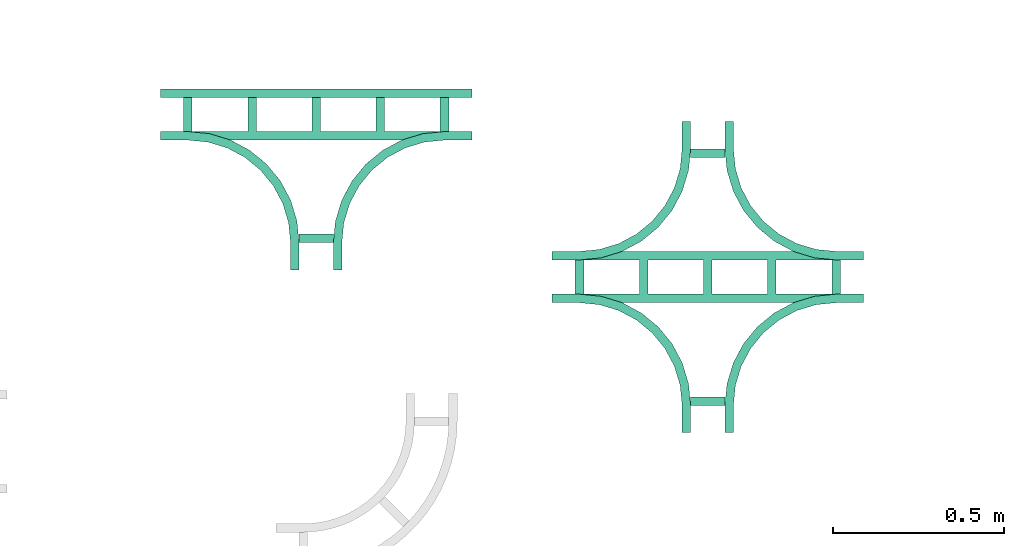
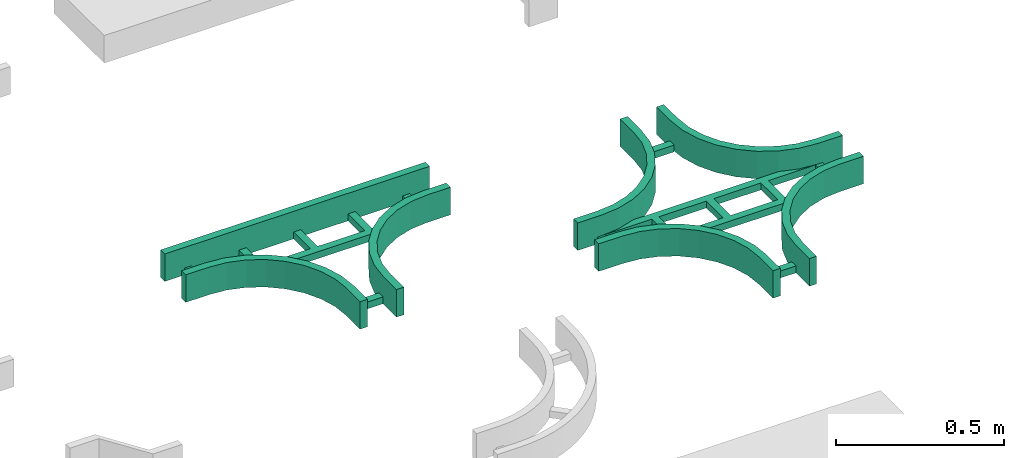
# One storey, part 12 of 13: 2 flow fittings.
"""IFC2X3 building model written with IfcOpenShell, lengths in millimetres."""

import ifcopenshell
import ifcopenshell.guid

model = None  # the IFC model being written
_history = None  # IfcOwnerHistory: only IFC2X3 demands one
_inside = {}  # id of a spatial element -> (the spatial element, [elements in it])
_under = {}  # id of a project, library or spatial element -> (it, [spatial elements below it])
_declared = {}  # id of a project -> (the project, [libraries it declares])
_typed = {}  # id of a type object -> (the type object, [elements of that type])
_made_of = {}  # id of a material, layer set ... -> (it, [elements and type objects made of it])


def new_model(schema):
    """Start an empty IFC model of exactly this schema.

    Asked for "IFC4X3", IfcOpenShell would pick the latest addendum, in which some entities
    have other attributes; the version numbers below select the first issue.
    IFC2X3 requires an IfcOwnerHistory on every rooted entity: one is made here for all.
    """
    global model, _history
    if schema == "IFC4X3":
        model = ifcopenshell.file(schema_version=(4, 3, 0, 0))
    else:
        model = ifcopenshell.file(schema=schema)
    _inside.clear()
    _under.clear()
    _declared.clear()
    _typed.clear()
    _made_of.clear()
    _history = None
    if model.schema == "IFC2X3":
        org = make("IfcOrganization", Name="unknown")
        user = make(
            "IfcPersonAndOrganization",
            ThePerson=make("IfcPerson", FamilyName="unknown"),
            TheOrganization=org,
        )
        app = make(
            "IfcApplication",
            ApplicationDeveloper=org,
            Version="unknown",
            ApplicationFullName="unknown",
            ApplicationIdentifier="unknown",
        )
        _history = make(
            "IfcOwnerHistory",
            OwningUser=user,
            OwningApplication=app,
            ChangeAction="ADDED",
            CreationDate=0,
        )
    return model


def make(cls, **values):
    """One entity of the class cls with the attributes given. An attribute that is None is left unset."""
    return model.create_entity(
        cls, **{name: value for name, value in values.items() if value is not None}
    )


def entity(cls, *values):
    """Any entity or typed value of the class cls, its attributes in the order of the schema. None: left unset."""
    e = model.create_entity(cls)
    for i, value in enumerate(values):
        if value is not None:
            e[i] = value
    return e


def rooted(cls, **values):
    """An entity with a GlobalId (a new one), such as an element, a storey or a relation."""
    return make(cls, GlobalId=ifcopenshell.guid.new(), OwnerHistory=_history, **values)


def si_unit(unit_type, name, prefix=None):
    """IfcSIUnit, for example si_unit("LENGTHUNIT", "METRE", prefix="MILLI")."""
    return make("IfcSIUnit", UnitType=unit_type, Prefix=prefix, Name=name)


def converted_unit(unit_type, name, factor, base, dimensions=None, offset=None):
    """IfcConversionBasedUnit, such as the inch: factor (a typed value) times the base unit."""
    return make(
        "IfcConversionBasedUnit"
        if offset is None
        else "IfcConversionBasedUnitWithOffset",
        ConversionOffset=offset,
        Dimensions=None
        if dimensions is None
        else entity("IfcDimensionalExponents", *dimensions),
        UnitType=unit_type,
        Name=name,
        ConversionFactor=make(
            "IfcMeasureWithUnit", ValueComponent=factor, UnitComponent=base
        ),
    )


def derived_unit(unit_type, elements):
    """IfcDerivedUnit: a product of units, each with its exponent."""
    return make(
        "IfcDerivedUnit",
        Elements=[
            make("IfcDerivedUnitElement", Unit=unit, Exponent=power)
            for unit, power in elements
        ],
        UnitType=unit_type,
    )


def assignment(units):
    """IfcUnitAssignment: the units of a project."""
    return None if units is None else make("IfcUnitAssignment", Units=units)


def point(xyz):
    """IfcCartesianPoint."""
    return None if xyz is None else make("IfcCartesianPoint", Coordinates=xyz)


def direction(xyz):
    """IfcDirection."""
    return None if xyz is None else make("IfcDirection", DirectionRatios=xyz)


def frame(location, z_axis=None, x_axis=None):
    """IfcAxis2Placement3D, a coordinate frame: its origin and axes. An axis left out is left unset."""
    return make(
        "IfcAxis2Placement3D",
        Location=point(location),
        Axis=direction(z_axis),
        RefDirection=direction(x_axis),
    )


def origin():
    """The frame at (0, 0, 0) with its axes left unset."""
    return frame((0.0, 0.0, 0.0))


def place(relative_to, where):
    """IfcLocalPlacement: puts the frame where relative to a parent placement (None: the world)."""
    return make(
        "IfcLocalPlacement", PlacementRelTo=relative_to, RelativePlacement=where
    )


def context(
    kind, dimensions, precision=None, world=None, true_north=None, identifier=None
):
    """IfcGeometricRepresentationContext, for example the 3D "Model" context."""
    return make(
        "IfcGeometricRepresentationContext",
        ContextIdentifier=identifier,
        ContextType=kind,
        CoordinateSpaceDimension=dimensions,
        Precision=precision,
        WorldCoordinateSystem=world,
        TrueNorth=true_north,
    )


def subcontext(parent, identifier, kind, view, scale=None):
    """IfcGeometricRepresentationSubContext, for example "Body" below "Model"."""
    return make(
        "IfcGeometricRepresentationSubContext",
        ContextIdentifier=identifier,
        ContextType=kind,
        ParentContext=parent,
        TargetScale=scale,
        TargetView=view,
    )


def project(units=None, contexts=None):
    """IfcProject with its units and contexts."""
    return rooted(
        "IfcProject",
        Name="project",
        RepresentationContexts=contexts,
        UnitsInContext=assignment(units),
    )


def spatial(cls, under=None, at=None, **own):
    """A site, building, storey or space (cls), placed at a placement, below another one or the project."""
    s = rooted(cls, ObjectPlacement=at, **own)
    if under is not None:
        _under.setdefault(under.id(), (under, []))[1].append(s)
    return s


def faces_of(points, faces, orient=None, outer=None):
    """IfcFace entities. A face is a list of loops; a loop is a list of indices into points, from 0.

    orient and outer hold one flag for each loop. By default every Orientation is true, the
    first loop of a face is its IfcFaceOuterBound and the others are IfcFaceBound.
    """
    made = []
    for i, loops in enumerate(faces):
        bounds = []
        for j, loop in enumerate(loops):
            is_outer = j == 0 if outer is None else outer[i][j]
            bounds.append(
                make(
                    "IfcFaceOuterBound" if is_outer else "IfcFaceBound",
                    Bound=make("IfcPolyLoop", Polygon=[points[k] for k in loop]),
                    Orientation=True if orient is None else orient[i][j],
                )
            )
        made.append(make("IfcFace", Bounds=bounds))
    return made


def faceted_brep(points, faces, orient=None, outer=None, voids=None):
    """IfcFacetedBrep: a solid bounded by flat faces; with voids (closed shells), ...WithVoids."""
    shared = [point(p) for p in points]
    hull = make("IfcClosedShell", CfsFaces=faces_of(shared, faces, orient, outer))
    if voids is None:
        return make("IfcFacetedBrep", Outer=hull)
    return make(
        "IfcFacetedBrepWithVoids",
        Outer=hull,
        Voids=[
            make(cls, CfsFaces=faces_of(shared, fs, o, b)) for cls, fs, o, b in voids
        ],
    )


def shape(context_of_items, identifier, shape_type, items):
    """IfcShapeRepresentation: the items that make up one representation, for example the "Body"."""
    return make(
        "IfcShapeRepresentation",
        ContextOfItems=context_of_items,
        RepresentationIdentifier=identifier,
        RepresentationType=shape_type,
        Items=items,
    )


def source(mapping_origin, context_of_items, identifier, shape_type, items):
    """IfcRepresentationMap: a shape defined once, which mapped items show again and again."""
    return make(
        "IfcRepresentationMap",
        MappingOrigin=mapping_origin,
        MappedRepresentation=shape(context_of_items, identifier, shape_type, items),
    )


def transform(
    local_origin,
    x_axis=None,
    y_axis=None,
    z_axis=None,
    scale=None,
    scale2=None,
    scale3=None,
    uniform=True,
):
    """IfcCartesianTransformationOperator3D, or its non-uniform kind. x_axis, y_axis, z_axis: its Axis1, 2, 3."""
    if uniform:
        return make(
            "IfcCartesianTransformationOperator3D",
            Axis1=direction(x_axis),
            Axis2=direction(y_axis),
            LocalOrigin=point(local_origin),
            Scale=scale,
            Axis3=direction(z_axis),
        )
    return make(
        "IfcCartesianTransformationOperator3DnonUniform",
        Axis1=direction(x_axis),
        Axis2=direction(y_axis),
        LocalOrigin=point(local_origin),
        Scale=scale,
        Axis3=direction(z_axis),
        Scale2=scale2,
        Scale3=scale3,
    )


def mapped(mapping_source, mapping_target):
    """IfcMappedItem: shows the shape of a source again, moved by a transform."""
    return make(
        "IfcMappedItem", MappingSource=mapping_source, MappingTarget=mapping_target
    )


def made_of(thing, what):
    """Note that an element or type object is made of a material, layer set ...; save() writes the relation."""
    if what is not None:
        _made_of.setdefault(what.id(), (what, []))[1].append(thing)
    return thing


def type_object(cls, material=None, **own):
    """A type object (cls), such as IfcWallType, which elements share."""
    return made_of(rooted(cls, **own), material)


def type_shapes(of_type, sources):
    """Give a type object the sources (RepresentationMaps) that its elements show as mapped items."""
    of_type.RepresentationMaps = sources


def element(
    cls,
    number,
    at=None,
    inside=None,
    cuts=None,
    type_object=None,
    material=None,
    context=None,
    identifier="Body",
    shape_type=None,
    held_by="IfcProductDefinitionShape",
    body=None,
    shapes=None,
    **own,
):
    """One element of the class cls, such as IfcWall. Its Tag is "e" and its number.

    at: its placement. inside: the storey or other place that contains it. cuts: it is an
    opening in that element (IfcRelVoidsElement). A single representation is given by context,
    identifier, shape_type and body (its items); several are given by shapes. held_by: the class
    of the entity that holds the representations. save() writes the other relations.
    """
    e = rooted(cls, Tag="e%d" % number, ObjectPlacement=at, **own)
    if body is not None:
        shapes = [shape(context, identifier, shape_type, body)]
    if shapes is not None:
        e.Representation = make(held_by, Representations=shapes)
    if inside is not None:
        _inside.setdefault(inside.id(), (inside, []))[1].append(e)
    if cuts is not None:
        rooted(
            "IfcRelVoidsElement", RelatingBuildingElement=cuts, RelatedOpeningElement=e
        )
    if type_object is not None:
        _typed.setdefault(type_object.id(), (type_object, []))[1].append(e)
    return made_of(e, material)


def aggregate(whole, parts):
    """IfcRelAggregates: a whole, such as a stair, and the parts it consists of."""
    return rooted("IfcRelAggregates", RelatingObject=whole, RelatedObjects=parts)


def save(model, path):
    """Write the relations noted so far, then the file.

    IfcRelAggregates (storeys below a building ...), IfcRelContainedInSpatialStructure (elements
    in a storey), IfcRelDefinesByType, IfcRelAssociatesMaterial and IfcRelDeclares: one each for
    every whole, place, type object, material and project.
    """
    for whole, parts in _under.values():
        aggregate(whole, parts)
    for where, things in _inside.values():
        rooted(
            "IfcRelContainedInSpatialStructure",
            RelatedElements=things,
            RelatingStructure=where,
        )
    for kind, things in _typed.values():
        rooted("IfcRelDefinesByType", RelatedObjects=things, RelatingType=kind)
    for what, things in _made_of.values():
        rooted("IfcRelAssociatesMaterial", RelatedObjects=things, RelatingMaterial=what)
    for by, libraries in _declared.values():
        rooted("IfcRelDeclares", RelatingContext=by, RelatedDefinitions=libraries)
    model.write(path)


model = new_model("IFC2X3")

# Units and contexts
model_context = context("Model", 3, precision=0.01, world=origin(), true_north=direction((6.12303176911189e-17, 1.0)))
body_context = subcontext(model_context, "Body", "Model", "MODEL_VIEW")
ifc_project = project(units=[si_unit("LENGTHUNIT", "METRE", prefix="MILLI"), si_unit("AREAUNIT", "SQUARE_METRE"), si_unit("VOLUMEUNIT", "CUBIC_METRE"), converted_unit("PLANEANGLEUNIT", "DEGREE", entity("IfcRatioMeasure", 0.0174532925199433), si_unit("PLANEANGLEUNIT", "RADIAN"), dimensions=[0, 0, 0, 0, 0, 0, 0]), si_unit("MASSUNIT", "GRAM", prefix="KILO"), si_unit("TIMEUNIT", "SECOND"), si_unit("FREQUENCYUNIT", "HERTZ"), si_unit("THERMODYNAMICTEMPERATUREUNIT", "KELVIN"), derived_unit("THERMALTRANSMITTANCEUNIT", [(si_unit("MASSUNIT", "GRAM", prefix="KILO"), 1), (si_unit("THERMODYNAMICTEMPERATUREUNIT", "KELVIN"), -1), (si_unit("TIMEUNIT", "SECOND"), -3)]), derived_unit("VOLUMETRICFLOWRATEUNIT", [(si_unit("LENGTHUNIT", "METRE"), 3), (si_unit("TIMEUNIT", "SECOND"), -1)]), si_unit("ELECTRICCURRENTUNIT", "AMPERE"), si_unit("ELECTRICVOLTAGEUNIT", "VOLT"), si_unit("POWERUNIT", "WATT")], contexts=[model_context])

# Site, building, storey
site_placement = place(None, origin())
site = spatial("IfcSite", under=ifc_project, at=site_placement, Name="Surface", CompositionType="ELEMENT")
building_placement = place(site_placement, origin())
building = spatial("IfcBuilding", under=site, at=building_placement, CompositionType="ELEMENT")
storey_placement = place(building_placement, origin())
storey = spatial("IfcBuildingStorey", under=building, at=storey_placement, Name="00_begane grond", CompositionType="ELEMENT", Elevation=0.0)

# Flow fittings
cable_carrier_fitting_type_1 = type_object("IfcCableCarrierFittingType", Name="T-stuk, radius_300", PredefinedType="NOTDEFINED")
shared_shape_1 = source(origin(), body_context, "Body", "Brep", [
    faceted_brep([(50.0, -350.0, -25.0), (-50.0, -350.0, -25.0), (-50.0, -375.0, -25.0), (50.0, -375.0, -25.0), (50.0, -350.0, -50.0), (50.0, -375.0, -50.0), (-50.0, -375.0, -50.0), (-50.0, -350.0, -50.0)], [[[0, 1, 2, 3]], [[4, 5, 6, 7]], [[1, 0, 4, 7]], [[2, 1, 7, 6]], [[3, 2, 6, 5]], [[0, 3, 5, 4]]]),
    faceted_brep([(387.500000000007, 50.0, -25.0), (362.500000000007, 50.0, -25.0), (362.500000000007, -50.0, -25.0), (387.500000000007, -50.0, -25.0), (387.500000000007, 50.0, -50.0), (387.500000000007, -50.0, -50.0), (362.500000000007, -50.0, -50.0), (362.500000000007, 50.0, -50.0)], [[[0, 1, 2, 3]], [[4, 5, 6, 7]], [[1, 0, 4, 7]], [[2, 1, 7, 6]], [[3, 2, 6, 5]], [[0, 3, 5, 4]]]),
    faceted_brep([(200.0, 50.0, -25.0), (175.0, 50.0, -25.0), (175.0, -50.0, -25.0), (200.0, -50.0, -25.0), (200.0, 50.0, -50.0), (200.0, -50.0, -50.0), (175.0, -50.0, -50.0), (175.0, 50.0, -50.0)], [[[0, 1, 2, 3]], [[4, 5, 6, 7]], [[1, 0, 4, 7]], [[2, 1, 7, 6]], [[3, 2, 6, 5]], [[0, 3, 5, 4]]]),
    faceted_brep([(12.5000000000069, 50.0, -25.0), (-12.4999999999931, 50.0, -25.0), (-12.4999999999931, -50.0, -25.0), (12.5000000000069, -50.0, -25.0), (12.5000000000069, 50.0, -50.0), (12.5000000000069, -50.0, -50.0), (-12.4999999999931, -50.0, -50.0), (-12.4999999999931, 50.0, -50.0)], [[[0, 1, 2, 3]], [[4, 5, 6, 7]], [[1, 0, 4, 7]], [[2, 1, 7, 6]], [[3, 2, 6, 5]], [[0, 3, 5, 4]]]),
    faceted_brep([(-175.0, 50.0, -25.0), (-200.0, 50.0, -25.0), (-200.0, -50.0, -25.0), (-175.0, -50.0, -25.0), (-175.0, 50.0, -50.0), (-175.0, -50.0, -50.0), (-200.0, -50.0, -50.0), (-200.0, 50.0, -50.0)], [[[0, 1, 2, 3]], [[4, 5, 6, 7]], [[1, 0, 4, 7]], [[2, 1, 7, 6]], [[3, 2, 6, 5]], [[0, 3, 5, 4]]]),
    faceted_brep([(-362.499999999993, 50.0, -25.0), (-387.499999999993, 50.0, -25.0), (-387.499999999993, -50.0, -25.0), (-362.499999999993, -50.0, -25.0), (-362.499999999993, 50.0, -50.0), (-362.499999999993, -50.0, -50.0), (-387.499999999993, -50.0, -50.0), (-387.499999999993, 50.0, -50.0)], [[[0, 1, 2, 3]], [[4, 5, 6, 7]], [[1, 0, 4, 7]], [[2, 1, 7, 6]], [[3, 2, 6, 5]], [[0, 3, 5, 4]]]),
    faceted_brep([(455.0, 75.0, 50.0), (-455.0, 75.0, 50.0), (-455.0, 50.0, 50.0), (455.0, 50.0, 50.0), (455.0, 75.0, -50.0), (-455.0, 75.0, -50.0), (-455.0, 50.0, -50.0), (455.0, 50.0, -50.0)], [[[0, 1, 2, 3]], [[1, 0, 4, 5]], [[2, 1, 5, 6]], [[3, 2, 6, 7]], [[0, 3, 7, 4]], [[4, 7, 6, 5]]]),
    faceted_brep([(-375.0, -50.0, 50.0), (-455.0, -50.0, 50.0), (-455.0, -75.0, 50.0), (-375.0, -75.0, 50.0), (-316.472903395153, -80.7644158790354, 50.0), (-260.194970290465, -97.8361402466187, 50.0), (-208.328930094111, -125.559116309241, 50.0), (-162.867965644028, -162.867965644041, 50.0), (-125.559116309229, -208.328930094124, 50.0), (-97.8361402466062, -260.194970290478, 50.0), (-80.7644158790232, -316.472903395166, 50.0), (-75.0, -375.0, 50.0), (-75.0, -455.0, 50.0), (-50.0, -455.0, 50.0), (-50.0, -375.0, 50.0), (-56.2447838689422, -311.595645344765, 50.0), (-74.7391519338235, -250.627884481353, 50.0), (-104.772376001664, -194.439674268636, 50.0), (-145.190296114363, -145.190296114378, 50.0), (-194.43967426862, -104.772376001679, 50.0), (-250.627884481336, -74.7391519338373, 50.0), (-311.595645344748, -56.2447838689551, 50.0), (250.627884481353, -74.7391519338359, 50.0), (194.439674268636, -104.772376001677, 50.0), (145.190296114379, -145.190296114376, 50.0), (104.77237600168, -194.439674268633, 50.0), (74.7391519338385, -250.62788448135, 50.0), (56.2447838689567, -311.595645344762, 50.0), (50.0, -375.0, 50.0), (50.0, -455.0, 50.0), (75.0, -455.0, 50.0), (75.0, -375.0, 50.0), (80.764415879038, -316.472903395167, 50.0), (97.8361402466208, -260.194970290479, 50.0), (125.559116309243, -208.328930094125, 50.0), (162.867965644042, -162.867965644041, 50.0), (208.328930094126, -125.559116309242, 50.0), (260.194970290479, -97.8361402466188, 50.0), (316.472903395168, -80.7644158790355, 50.0), (375.0, -75.0, 50.0), (455.0, -75.0, 50.0), (455.0, -50.0, 50.0), (375.0, -50.0, 50.0), (311.595645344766, -56.2447838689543, 50.0), (-50.0, -455.0, -50.0), (-75.0, -455.0, -50.0), (-75.0, -375.0, -50.0), (-80.7644158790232, -316.472903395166, -50.0), (-97.8361402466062, -260.194970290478, -50.0), (-125.559116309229, -208.328930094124, -50.0), (-162.867965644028, -162.867965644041, -50.0), (-208.328930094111, -125.559116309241, -50.0), (-260.194970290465, -97.8361402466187, -50.0), (-316.472903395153, -80.7644158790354, -50.0), (-375.0, -75.0, -50.0), (-455.0, -75.0, -50.0), (-455.0, -50.0, -50.0), (455.0, -50.0, -50.0), (455.0, -75.0, -50.0), (375.0, -75.0, -50.0), (316.472903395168, -80.7644158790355, -50.0), (260.194970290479, -97.8361402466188, -50.0), (208.328930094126, -125.559116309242, -50.0), (162.867965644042, -162.867965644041, -50.0), (125.559116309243, -208.328930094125, -50.0), (97.8361402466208, -260.194970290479, -50.0), (80.764415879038, -316.472903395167, -50.0), (75.0, -375.0, -50.0), (75.0, -455.0, -50.0), (50.0, -455.0, -50.0), (50.0, -375.0, -50.0), (56.2226983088, -311.706778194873, -50.0), (74.6525012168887, -250.837284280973, -50.0), (104.583665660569, -194.722419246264, -50.0), (144.87001976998, -145.511019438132, -50.0), (193.968855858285, -105.087560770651, -50.0), (250.0, -75.0, -50.0), (-250.0, -75.0, -50.0), (-193.968855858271, -105.087560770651, -50.0), (-144.870019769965, -145.511019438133, -50.0), (-104.583665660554, -194.722419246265, -50.0), (-74.6525012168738, -250.837284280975, -50.0), (-56.2226983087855, -311.706778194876, -50.0), (-50.0, -375.0, -50.0), (-250.0, -75.0, -25.0), (-311.262256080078, -56.3112804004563, -25.0), (-375.0, -50.0, -25.0), (375.0, -50.0, -25.0), (-375.0, -75.0, -25.0), (375.0, -75.0, -25.0), (250.0, -75.0, -25.0), (311.262256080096, -56.3112804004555, -25.0)], [[[0, 1, 2, 3, 4, 5, 6, 7, 8, 9, 10, 11, 12, 13, 14, 15, 16, 17, 18, 19, 20, 21]], [[22, 23, 24, 25, 26, 27, 28, 29, 30, 31, 32, 33, 34, 35, 36, 37, 38, 39, 40, 41, 42, 43]], [[44, 45, 46, 47, 48, 49, 50, 51, 52, 53, 54, 55, 56, 57, 58, 59, 60, 61, 62, 63, 64, 65, 66, 67, 68, 69, 70, 71, 72, 73, 74, 75, 76, 77, 78, 79, 80, 81, 82, 83]], [[12, 11, 46, 45]], [[13, 12, 45, 44]], [[30, 29, 69, 68]], [[14, 13, 44, 83]], [[14, 83, 82]], [[15, 82, 81]], [[14, 82, 15]], [[16, 80, 17]], [[16, 15, 81]], [[17, 80, 79]], [[80, 16, 81]], [[79, 18, 17]], [[78, 84, 19]], [[84, 78, 77]], [[84, 85, 20]], [[21, 85, 86]], [[18, 78, 19]], [[20, 19, 84]], [[85, 21, 20]], [[86, 0, 21]], [[78, 18, 79]], [[42, 41, 57, 56, 1, 0, 86, 87]], [[2, 1, 56, 55]], [[3, 2, 55, 54, 88]], [[40, 39, 89, 59, 58]], [[90, 84, 77, 76]], [[4, 3, 88, 54, 53]], [[53, 52, 5, 4]], [[5, 52, 51, 6]], [[51, 50, 7, 6]], [[8, 7, 50, 49]], [[10, 9, 48, 47]], [[8, 49, 48, 9]], [[10, 47, 46, 11]], [[32, 31, 67, 66]], [[65, 33, 32, 66]], [[33, 65, 64, 34]], [[35, 34, 64, 63]], [[36, 35, 63, 62]], [[38, 37, 61, 60]], [[36, 62, 61, 37]], [[38, 60, 59, 89, 39]], [[41, 40, 58, 57]], [[87, 91, 43]], [[90, 76, 75]], [[42, 87, 43]], [[22, 90, 23]], [[22, 43, 91]], [[23, 90, 75]], [[90, 22, 91]], [[75, 24, 23]], [[25, 74, 73]], [[27, 72, 71]], [[73, 72, 26]], [[28, 71, 70]], [[24, 74, 25]], [[26, 25, 73]], [[72, 27, 26]], [[71, 28, 27]], [[74, 24, 75]], [[29, 28, 70, 69]], [[31, 30, 68, 67]], [[91, 87, 86, 85, 84, 90]]]),
])
type_shapes(cable_carrier_fitting_type_1, [shared_shape_1])
flow_fitting_1_placement = place(storey_placement, frame((1396.10926164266, -45190.8848319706, 0.0)))
element("IfcFlowFitting", 1, at=flow_fitting_1_placement, inside=storey, type_object=cable_carrier_fitting_type_1, Name="61_CTF_kabelgoot_open_Tsplitsing:T-stuk, radius_300", ObjectType="T-stuk, radius_300", context=body_context, shape_type="MappedRepresentation", body=[
    mapped(shared_shape_1, transform((0.0, 0.0, 0.0), scale=1.0)),
])
cable_carrier_fitting_type_2 = type_object("IfcCableCarrierFittingType", Name="kruising, radius_300", PredefinedType="NOTDEFINED")
shared_shape_2 = source(origin(), body_context, "Body", "Brep", [
    faceted_brep([(50.0, 375.0, -25.0), (-50.0, 375.0, -25.0), (-50.0, 350.0, -25.0), (50.0, 350.0, -25.0), (50.0, 375.0, -50.0), (50.0, 350.0, -50.0), (-50.0, 350.0, -50.0), (-50.0, 375.0, -50.0)], [[[0, 1, 2, 3]], [[4, 5, 6, 7]], [[1, 0, 4, 7]], [[2, 1, 7, 6]], [[3, 2, 6, 5]], [[0, 3, 5, 4]]]),
    faceted_brep([(-50.0, -350.0, -25.0), (50.0, -350.0, -25.0), (50.0, -350.0, -50.0), (-50.0, -350.0, -50.0), (-50.0, -375.0, -25.0), (-50.0, -375.0, -50.0), (50.0, -375.0, -25.0), (50.0, -375.0, -50.0)], [[[0, 1, 2, 3]], [[4, 0, 3, 5]], [[6, 4, 5, 7]], [[1, 6, 7, 2]], [[2, 7, 5, 3]], [[1, 0, 4, 6]]]),
    faceted_brep([(387.500000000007, 50.0, -25.0), (362.500000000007, 50.0, -25.0), (362.500000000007, -50.0, -25.0), (387.500000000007, -50.0, -25.0), (387.500000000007, 50.0, -50.0), (387.500000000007, -50.0, -50.0), (362.500000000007, -50.0, -50.0), (362.500000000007, 50.0, -50.0)], [[[0, 1, 2, 3]], [[4, 5, 6, 7]], [[1, 0, 4, 7]], [[2, 1, 7, 6]], [[3, 2, 6, 5]], [[0, 3, 5, 4]]]),
    faceted_brep([(200.0, 50.0, -25.0), (175.0, 50.0, -25.0), (175.0, -50.0, -25.0), (200.0, -50.0, -25.0), (200.0, 50.0, -50.0), (200.0, -50.0, -50.0), (175.0, -50.0, -50.0), (175.0, 50.0, -50.0)], [[[0, 1, 2, 3]], [[4, 5, 6, 7]], [[1, 0, 4, 7]], [[2, 1, 7, 6]], [[3, 2, 6, 5]], [[0, 3, 5, 4]]]),
    faceted_brep([(12.5000000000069, 50.0, -25.0), (-12.4999999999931, 50.0, -25.0), (-12.4999999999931, -50.0, -25.0), (12.5000000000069, -50.0, -25.0), (12.5000000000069, 50.0, -50.0), (12.5000000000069, -50.0, -50.0), (-12.4999999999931, -50.0, -50.0), (-12.4999999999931, 50.0, -50.0)], [[[0, 1, 2, 3]], [[4, 5, 6, 7]], [[1, 0, 4, 7]], [[2, 1, 7, 6]], [[3, 2, 6, 5]], [[0, 3, 5, 4]]]),
    faceted_brep([(-175.0, 50.0, -25.0), (-200.0, 50.0, -25.0), (-200.0, -50.0, -25.0), (-175.0, -50.0, -25.0), (-175.0, 50.0, -50.0), (-175.0, -50.0, -50.0), (-200.0, -50.0, -50.0), (-200.0, 50.0, -50.0)], [[[0, 1, 2, 3]], [[4, 5, 6, 7]], [[1, 0, 4, 7]], [[2, 1, 7, 6]], [[3, 2, 6, 5]], [[0, 3, 5, 4]]]),
    faceted_brep([(-362.499999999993, 50.0, -25.0), (-387.499999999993, 50.0, -25.0), (-387.499999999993, -50.0, -25.0), (-362.499999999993, -50.0, -25.0), (-362.499999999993, 50.0, -50.0), (-362.499999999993, -50.0, -50.0), (-387.499999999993, -50.0, -50.0), (-387.499999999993, 50.0, -50.0)], [[[0, 1, 2, 3]], [[4, 5, 6, 7]], [[1, 0, 4, 7]], [[2, 1, 7, 6]], [[3, 2, 6, 5]], [[0, 3, 5, 4]]]),
    faceted_brep([(-455.0, 50.0, -50.0), (-455.0, 75.0, -50.0), (-375.0, 75.0, -50.0), (-316.472903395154, 80.7644158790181, -50.0), (-260.194970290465, 97.8361402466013, -50.0), (-208.328930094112, 125.559116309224, -50.0), (-162.867965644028, 162.867965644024, -50.0), (-125.559116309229, 208.328930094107, -50.0), (-97.8361402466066, 260.194970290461, -50.0), (-80.7644158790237, 316.47290339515, -50.0), (-75.0, 375.0, -50.0), (-75.0, 455.0, -50.0), (-50.0, 455.0, -50.0), (-50.0, 375.0, -50.0), (-56.2226983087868, 311.706778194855, -50.0), (-74.6525012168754, 250.837284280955, -50.0), (-104.583665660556, 194.722419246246, -50.0), (-144.870019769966, 145.511019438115, -50.0), (-193.968855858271, 105.087560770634, -50.0), (-250.0, 75.0, -50.0), (250.0, 75.0, -50.0), (193.968855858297, 105.087560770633, -50.0), (144.870019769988, 145.511019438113, -50.0), (104.583665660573, 194.722419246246, -50.0), (74.6525012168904, 250.837284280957, -50.0), (56.2226983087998, 311.706778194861, -50.0), (50.0, 375.0, -50.0), (50.0, 455.0, -50.0), (75.0, 455.0, -50.0), (75.0, 375.0, -50.0), (80.7644158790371, 316.472903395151, -50.0), (97.8361402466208, 260.194970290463, -50.0), (125.559116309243, 208.32893009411, -50.0), (162.867965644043, 162.867965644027, -50.0), (208.328930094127, 125.559116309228, -50.0), (260.19497029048, 97.8361402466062, -50.0), (316.472903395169, 80.7644158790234, -50.0), (375.0, 75.0, -50.0), (455.0, 75.0, -50.0), (455.0, 50.0, -50.0), (75.0, 455.0, 50.0), (50.0, 455.0, 50.0), (50.0, 375.0, 50.0), (56.244783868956, 311.595645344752, 50.0), (74.7391519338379, 250.62788448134, 50.0), (104.772376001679, 194.439674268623, 50.0), (145.190296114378, 145.190296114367, 50.0), (194.439674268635, 104.772376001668, 50.0), (250.627884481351, 74.7391519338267, 50.0), (311.595645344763, 56.2447838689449, 50.0), (375.0, 50.0, 50.0), (455.0, 50.0, 50.0), (455.0, 75.0, 50.0), (375.0, 75.0, 50.0), (316.472903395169, 80.7644158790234, 50.0), (260.19497029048, 97.8361402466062, 50.0), (208.328930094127, 125.559116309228, 50.0), (162.867965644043, 162.867965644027, 50.0), (125.559116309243, 208.32893009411, 50.0), (97.8361402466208, 260.194970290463, 50.0), (80.7644158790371, 316.472903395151, 50.0), (75.0, 375.0, 50.0), (-74.7391519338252, 250.627884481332, 50.0), (-56.2447838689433, 311.595645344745, 50.0), (-50.0, 375.0, 50.0), (-50.0, 455.0, 50.0), (-75.0, 455.0, 50.0), (-75.0, 375.0, 50.0), (-80.7644158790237, 316.47290339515, 50.0), (-97.8361402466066, 260.194970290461, 50.0), (-125.559116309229, 208.328930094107, 50.0), (-162.867965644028, 162.867965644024, 50.0), (-208.328930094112, 125.559116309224, 50.0), (-260.194970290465, 97.8361402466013, 50.0), (-316.472903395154, 80.7644158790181, 50.0), (-375.0, 75.0, 50.0), (-455.0, 75.0, 50.0), (-455.0, 50.0, 50.0), (-375.0, 50.0, 50.0), (-311.595645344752, 56.244783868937, 50.0), (-250.62788448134, 74.7391519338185, 50.0), (-194.439674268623, 104.772376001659, 50.0), (-145.190296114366, 145.190296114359, 50.0), (-104.772376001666, 194.439674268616, 50.0), (311.262256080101, 56.3112804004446, -25.0), (250.0, 75.0, -25.0), (-250.0, 75.0, -25.0), (-311.262256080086, 56.3112804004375, -25.0), (-375.0, 50.0, -25.0), (375.0, 50.0, -25.0), (-375.0, 75.0, -25.0), (375.0, 75.0, -25.0)], [[[0, 1, 2, 3, 4, 5, 6, 7, 8, 9, 10, 11, 12, 13, 14, 15, 16, 17, 18, 19, 20, 21, 22, 23, 24, 25, 26, 27, 28, 29, 30, 31, 32, 33, 34, 35, 36, 37, 38, 39]], [[40, 41, 42, 43, 44, 45, 46, 47, 48, 49, 50, 51, 52, 53, 54, 55, 56, 57, 58, 59, 60, 61]], [[62, 63, 64, 65, 66, 67, 68, 69, 70, 71, 72, 73, 74, 75, 76, 77, 78, 79, 80, 81, 82, 83]], [[84, 85, 86, 87, 88, 89]], [[65, 64, 13, 12]], [[66, 65, 12, 11]], [[41, 40, 28, 27]], [[67, 66, 11, 10]], [[68, 67, 10, 9]], [[8, 69, 68, 9]], [[69, 8, 7, 70]], [[6, 71, 70, 7]], [[5, 72, 71, 6]], [[74, 73, 4, 3]], [[72, 5, 4, 73]], [[75, 74, 3, 2, 90]], [[76, 75, 90, 2, 1]], [[53, 52, 38, 37, 91]], [[86, 85, 20, 19]], [[77, 76, 1, 0]], [[78, 77, 0, 39, 51, 50, 89, 88]], [[88, 87, 79]], [[86, 19, 18]], [[78, 88, 79]], [[80, 86, 81]], [[80, 79, 87]], [[81, 86, 18]], [[86, 80, 87]], [[18, 82, 81]], [[83, 17, 16]], [[63, 15, 14]], [[16, 15, 62]], [[64, 14, 13]], [[82, 17, 83]], [[62, 83, 16]], [[15, 63, 62]], [[14, 64, 63]], [[17, 82, 18]], [[42, 26, 25]], [[43, 25, 24]], [[42, 25, 43]], [[44, 23, 45]], [[44, 43, 24]], [[45, 23, 22]], [[23, 44, 24]], [[22, 46, 45]], [[21, 85, 47]], [[85, 21, 20]], [[85, 84, 48]], [[49, 84, 89]], [[46, 21, 47]], [[48, 47, 85]], [[84, 49, 48]], [[89, 50, 49]], [[21, 46, 22]], [[52, 51, 39, 38]], [[54, 53, 91, 37, 36]], [[35, 55, 54, 36]], [[55, 35, 34, 56]], [[34, 33, 57, 56]], [[58, 57, 33, 32]], [[60, 59, 31, 30]], [[58, 32, 31, 59]], [[60, 30, 29, 61]], [[40, 61, 29, 28]], [[42, 41, 27, 26]]]),
    faceted_brep([(311.262256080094, -56.3112804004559, -25.0), (375.0, -50.0, -25.0), (-375.0, -50.0, -25.0), (-311.26225608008, -56.3112804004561, -25.0), (-250.0, -75.0, -25.0), (250.0, -75.0, -25.0), (-375.0, -50.0, 50.0), (-455.0, -50.0, 50.0), (-455.0, -75.0, 50.0), (-375.0, -75.0, 50.0), (-316.472903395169, -80.7644158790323, 50.0), (-260.194970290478, -97.8361402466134, 50.0), (-208.328930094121, -125.559116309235, 50.0), (-162.867965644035, -162.867965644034, 50.0), (-125.559116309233, -208.328930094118, 50.0), (-97.8361402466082, -260.194970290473, 50.0), (-80.7644158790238, -316.472903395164, 50.0), (-75.0, -375.0, 50.0), (-75.0, -455.0, 50.0), (-50.0, -455.0, 50.0), (-50.0, -375.0, 50.0), (-56.2447838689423, -311.595645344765, 50.0), (-74.7391519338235, -250.627884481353, 50.0), (-104.772376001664, -194.439674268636, 50.0), (-145.190296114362, -145.190296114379, 50.0), (-194.439674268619, -104.772376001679, 50.0), (-250.627884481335, -74.7391519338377, 50.0), (-311.595645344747, -56.2447838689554, 50.0), (250.627884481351, -74.7391519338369, 50.0), (194.439674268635, -104.772376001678, 50.0), (145.190296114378, -145.190296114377, 50.0), (104.772376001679, -194.439674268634, 50.0), (74.7391519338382, -250.627884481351, 50.0), (56.2447838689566, -311.595645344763, 50.0), (50.0, -375.0, 50.0), (50.0, -455.0, 50.0), (75.0, -455.0, 50.0), (75.0, -375.0, 50.0), (80.7644158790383, -316.472903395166, 50.0), (97.8361402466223, -260.194970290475, 50.0), (125.559116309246, -208.32893009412, 50.0), (162.867965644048, -162.867965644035, 50.0), (208.328930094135, -125.559116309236, 50.0), (260.194970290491, -97.836140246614, 50.0), (316.472903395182, -80.7644158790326, 50.0), (375.0, -75.0, 50.0), (455.0, -75.0, 50.0), (455.0, -50.0, 50.0), (375.0, -50.0, 50.0), (311.595645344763, -56.2447838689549, 50.0), (-50.0, -455.0, -50.0), (-75.0, -455.0, -50.0), (-75.0, -375.0, -50.0), (-80.7644158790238, -316.472903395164, -50.0), (-97.8361402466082, -260.194970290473, -50.0), (-125.559116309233, -208.328930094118, -50.0), (-162.867965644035, -162.867965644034, -50.0), (-208.328930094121, -125.559116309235, -50.0), (-260.194970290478, -97.8361402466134, -50.0), (-316.472903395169, -80.7644158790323, -50.0), (-375.0, -75.0, -50.0), (-455.0, -75.0, -50.0), (-455.0, -50.0, -50.0), (455.0, -50.0, -50.0), (455.0, -75.0, -50.0), (375.0, -75.0, -50.0), (316.472903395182, -80.7644158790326, -50.0), (260.194970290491, -97.836140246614, -50.0), (208.328930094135, -125.559116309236, -50.0), (162.867965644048, -162.867965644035, -50.0), (125.559116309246, -208.32893009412, -50.0), (97.8361402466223, -260.194970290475, -50.0), (80.7644158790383, -316.472903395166, -50.0), (75.0, -375.0, -50.0), (75.0, -455.0, -50.0), (50.0, -455.0, -50.0), (50.0, -375.0, -50.0), (56.2226983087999, -311.706778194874, -50.0), (74.6525012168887, -250.837284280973, -50.0), (104.583665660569, -194.722419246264, -50.0), (144.87001976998, -145.511019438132, -50.0), (193.968855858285, -105.087560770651, -50.0), (250.0, -75.0, -50.0), (-250.0, -75.0, -50.0), (-193.968855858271, -105.087560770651, -50.0), (-144.870019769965, -145.511019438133, -50.0), (-104.583665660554, -194.722419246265, -50.0), (-74.6525012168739, -250.837284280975, -50.0), (-56.2226983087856, -311.706778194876, -50.0), (-50.0, -375.0, -50.0), (-375.0, -75.0, -25.0), (375.0, -75.0, -25.0)], [[[0, 1, 2, 3, 4, 5]], [[6, 7, 8, 9, 10, 11, 12, 13, 14, 15, 16, 17, 18, 19, 20, 21, 22, 23, 24, 25, 26, 27]], [[28, 29, 30, 31, 32, 33, 34, 35, 36, 37, 38, 39, 40, 41, 42, 43, 44, 45, 46, 47, 48, 49]], [[50, 51, 52, 53, 54, 55, 56, 57, 58, 59, 60, 61, 62, 63, 64, 65, 66, 67, 68, 69, 70, 71, 72, 73, 74, 75, 76, 77, 78, 79, 80, 81, 82, 83, 84, 85, 86, 87, 88, 89]], [[18, 17, 52, 51]], [[19, 18, 51, 50]], [[36, 35, 75, 74]], [[20, 19, 50, 89]], [[20, 89, 88]], [[21, 88, 87]], [[20, 88, 21]], [[22, 86, 23]], [[22, 21, 87]], [[23, 86, 85]], [[86, 22, 87]], [[85, 24, 23]], [[84, 4, 25]], [[4, 84, 83]], [[4, 3, 26]], [[27, 3, 2]], [[24, 84, 25]], [[26, 25, 4]], [[3, 27, 26]], [[2, 6, 27]], [[84, 24, 85]], [[48, 47, 63, 62, 7, 6, 2, 1]], [[8, 7, 62, 61]], [[9, 8, 61, 60, 90]], [[46, 45, 91, 65, 64]], [[5, 4, 83, 82]], [[10, 9, 90, 60, 59]], [[59, 58, 11, 10]], [[11, 58, 57, 12]], [[57, 56, 13, 12]], [[14, 13, 56, 55]], [[16, 15, 54, 53]], [[14, 55, 54, 15]], [[16, 53, 52, 17]], [[38, 37, 73, 72]], [[71, 39, 38, 72]], [[39, 71, 70, 40]], [[41, 40, 70, 69]], [[42, 41, 69, 68]], [[44, 43, 67, 66]], [[42, 68, 67, 43]], [[44, 66, 65, 91, 45]], [[47, 46, 64, 63]], [[1, 0, 49]], [[5, 82, 81]], [[48, 1, 49]], [[28, 5, 29]], [[28, 49, 0]], [[29, 5, 81]], [[5, 28, 0]], [[81, 30, 29]], [[31, 80, 79]], [[33, 78, 77]], [[79, 78, 32]], [[34, 77, 76]], [[30, 80, 31]], [[32, 31, 79]], [[78, 33, 32]], [[77, 34, 33]], [[80, 30, 81]], [[35, 34, 76, 75]], [[37, 36, 74, 73]]]),
])
type_shapes(cable_carrier_fitting_type_2, [shared_shape_2])
flow_fitting_2_placement = place(storey_placement, frame((2540.78584231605, -45666.2868280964, 0.0)))
element("IfcFlowFitting", 2, at=flow_fitting_2_placement, inside=storey, type_object=cable_carrier_fitting_type_2, Name="61_CTF_kabelgoot_open_kruising:kruising, radius_300", ObjectType="kruising, radius_300", context=body_context, shape_type="MappedRepresentation", body=[
    mapped(shared_shape_2, transform((0.0, 0.0, 0.0), scale=1.0)),
])

save(model, "model.ifc")
